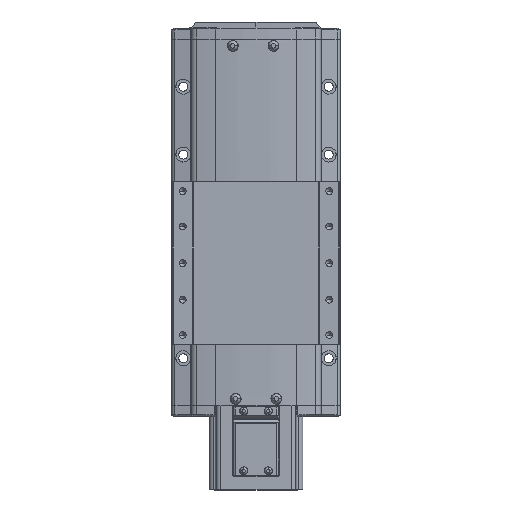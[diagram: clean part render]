
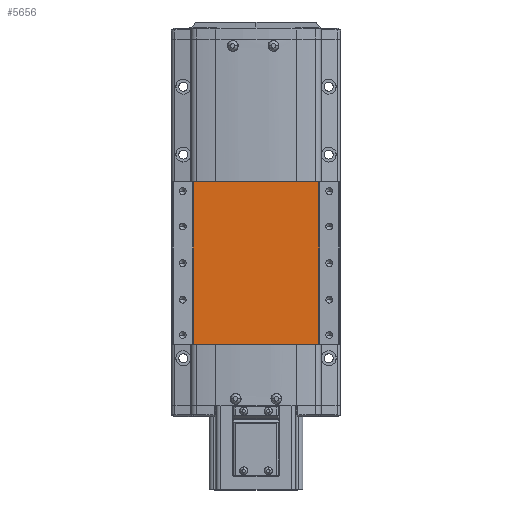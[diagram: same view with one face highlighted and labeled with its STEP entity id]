
A CAD part, top view. The second image highlights one B-rep face of the part: STEP entity #5656.
In plain terms, the highlighted planar face has unit normal (0, 0, 1).
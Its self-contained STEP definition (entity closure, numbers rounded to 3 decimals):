
#5656=ADVANCED_FACE('',(#13207),#13208,.F.);
#13207=FACE_OUTER_BOUND('',#23725,.T.);
#13208=PLANE('',#23726);
#23725=EDGE_LOOP('',(#41628,#41629,#41630,#41631));
#23726=AXIS2_PLACEMENT_3D('',#41632,#41633,#41634);
#41628=ORIENTED_EDGE('',*,*,#63973,.F.);
#41629=ORIENTED_EDGE('',*,*,#64653,.F.);
#41630=ORIENTED_EDGE('',*,*,#64654,.F.);
#41631=ORIENTED_EDGE('',*,*,#62597,.T.);
#41632=CARTESIAN_POINT('',(-300.,42.222,36.5));
#41633=DIRECTION('',(0.,0.,-1.0));
#41634=DIRECTION('',(-1.0,0.,0.));
#62597=EDGE_CURVE('',#76153,#76150,#76154,.T.);
#63973=EDGE_CURVE('',#78263,#76150,#78265,.T.);
#64653=EDGE_CURVE('',#79251,#78263,#79252,.T.);
#64654=EDGE_CURVE('',#76153,#79251,#79253,.T.);
#76150=VERTEX_POINT('',#95086);
#76153=VERTEX_POINT('',#95089);
#76154=LINE('',#95090,#95091);
#78263=VERTEX_POINT('',#98144);
#78265=LINE('',#98146,#98147);
#79251=VERTEX_POINT('',#99531);
#79252=LINE('',#99532,#99533);
#79253=LINE('',#99534,#99535);
#95086=CARTESIAN_POINT('',(-253.624,162.222,36.5));
#95089=CARTESIAN_POINT('',(-253.624,42.222,36.5));
#95090=CARTESIAN_POINT('',(-253.624,42.222,36.5));
#95091=VECTOR('',#113318,10.0);
#98144=CARTESIAN_POINT('',(-346.376,162.222,36.5));
#98146=CARTESIAN_POINT('',(-253.624,162.222,36.5));
#98147=VECTOR('',#115243,10.0);
#99531=CARTESIAN_POINT('',(-346.376,42.222,36.5));
#99532=CARTESIAN_POINT('',(-346.376,42.222,36.5));
#99533=VECTOR('',#116154,10.0);
#99534=CARTESIAN_POINT('',(-253.624,42.222,36.5));
#99535=VECTOR('',#116155,10.0);
#113318=DIRECTION('',(0.,1.0,0.));
#115243=DIRECTION('',(1.0,0.,0.));
#116154=DIRECTION('',(0.,1.0,0.));
#116155=DIRECTION('',(-1.0,0.,0.));
